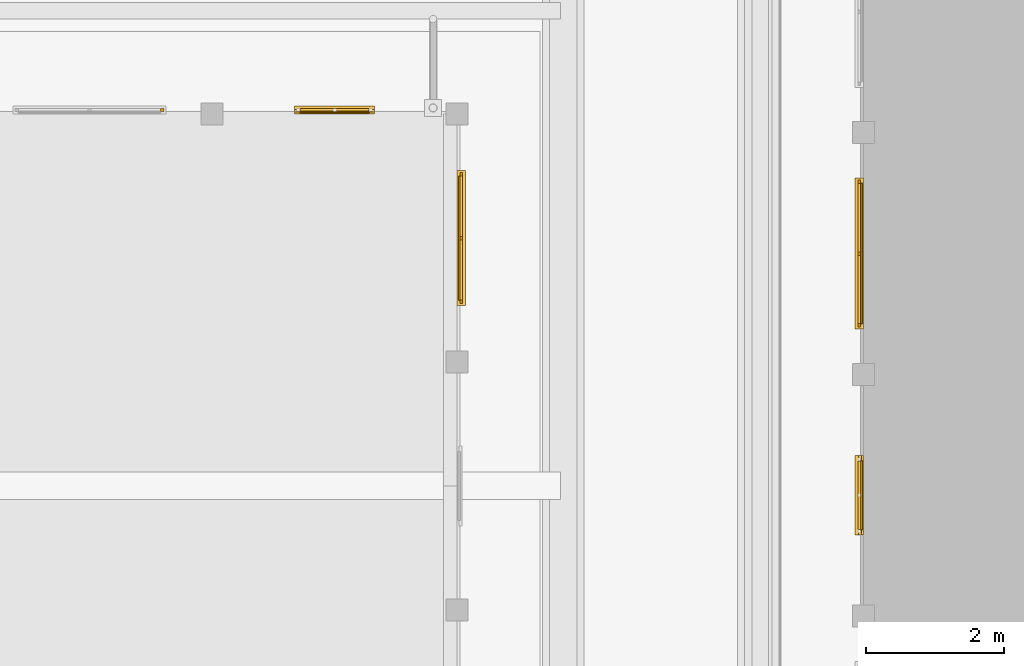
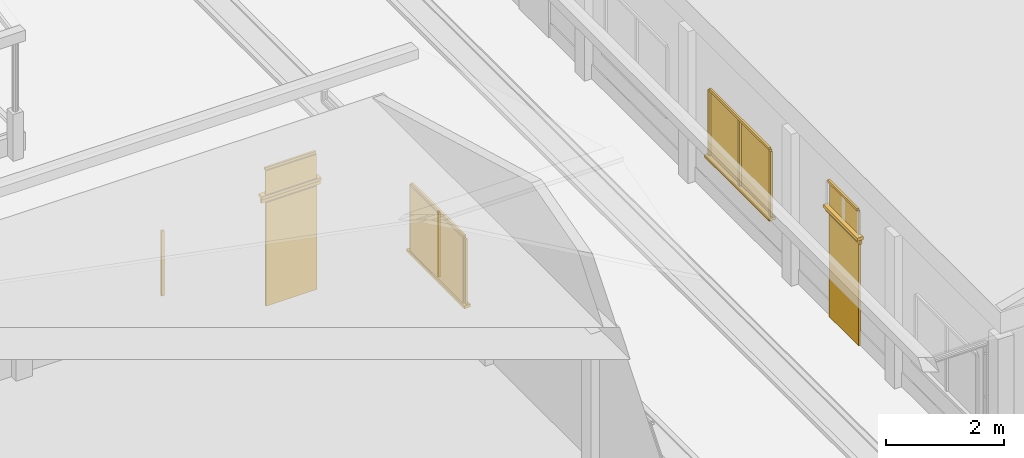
# One storey, part 65 of 177: 19 windows, 4 doors.
"""IFC4 building model written with IfcOpenShell, lengths in metres."""

from ifc_helpers import new_model, si_unit, origin, origin_with_axes, place, context, subcontext, project, spatial, triangles, element, save


model = new_model("IFC4")

# Units and contexts
model_context = context("Model", 3, precision=1e-05, world=origin_with_axes())
body_context = subcontext(model_context, "Body", "Model", "MODEL_VIEW")
ifc_project = project(units=[si_unit("LENGTHUNIT", "METRE"), si_unit("AREAUNIT", "SQUARE_METRE"), si_unit("VOLUMEUNIT", "CUBIC_METRE"), si_unit("PLANEANGLEUNIT", "RADIAN")], contexts=[model_context])

# Site, building, storey
site_placement = place(None, origin_with_axes())
site = spatial("IfcSite", under=ifc_project, at=site_placement, Name="Predio Los Mangos - Morales, San Martín", CompositionType="ELEMENT")
building_placement = place(site_placement, origin())
building = spatial("IfcBuilding", under=site, at=building_placement, Name="Hogar de Refugio Temporal", CompositionType="ELEMENT")
storey_placement = place(building_placement, origin())
storey = spatial("IfcBuildingStorey", under=building, at=storey_placement, Name="NIVEL 1 (NPT +0.00)", CompositionType="ELEMENT", Elevation=0.0)

# Window
window_1_placement = place(storey_placement, origin())
element("IfcWindow", 1, at=window_1_placement, inside=storey, Name="E-06_v3_m", ObjectType="Ventana", PredefinedType="WINDOW", context=body_context, shape_type="Tessellation", body=[
    triangles([(45.4924, 103.54, 1.05), (45.5424, 103.54, 1.05), (45.5424, 103.58, 1.05), (45.4924, 103.58, 1.05), (45.4924, 103.54, 2.4), (45.5424, 103.54, 2.4), (45.5424, 103.58, 2.4), (45.4924, 103.58, 2.4)], [[1, 4, 3], [1, 3, 2], [5, 6, 7], [5, 7, 8], [1, 2, 6], [1, 6, 5], [2, 3, 7], [2, 7, 6], [3, 4, 8], [3, 8, 7], [4, 1, 5], [4, 5, 8]]),
])

# Doors
door_1_placement = place(storey_placement, origin())
element("IfcDoor", 2, at=door_1_placement, inside=storey, Name="E-06_p4", ObjectType="Puerta", PredefinedType="DOOR", context=body_context, shape_type="Tessellation", body=[
    triangles([(47.52, 103.51, 0.15), (48.52, 103.51, 0.15), (48.52, 103.55, 0.15), (47.52, 103.55, 0.15), (47.52, 103.51, 2.3), (48.52, 103.51, 2.3), (48.52, 103.55, 2.3), (47.52, 103.55, 2.3)], [[1, 4, 3], [1, 3, 2], [5, 6, 7], [5, 7, 8], [1, 2, 6], [1, 6, 5], [2, 3, 7], [2, 7, 6], [3, 4, 8], [3, 8, 7], [4, 1, 5], [4, 5, 8]]),
])
door_2_placement = place(storey_placement, origin())
element("IfcDoor", 3, at=door_2_placement, inside=storey, Name="E-06_p4_marco", ObjectType="Puerta", PredefinedType="DOOR", context=body_context, shape_type="Tessellation", body=[
    triangles([(47.44, 103.53, 2.3), (48.6, 103.53, 2.3), (48.6, 103.57, 2.3), (47.44, 103.57, 2.3), (47.44, 103.53, 2.38), (48.6, 103.53, 2.38), (48.6, 103.57, 2.38), (47.44, 103.57, 2.38)], [[1, 4, 3], [1, 3, 2], [5, 6, 7], [5, 7, 8], [1, 2, 6], [1, 6, 5], [2, 3, 7], [2, 7, 6], [3, 4, 8], [3, 8, 7], [4, 1, 5], [4, 5, 8]]),
])

# Windows
window_2_placement = place(storey_placement, origin())
element("IfcWindow", 4, at=window_2_placement, inside=storey, Name="E-06_vt4_vid", ObjectType="Ventana", PredefinedType="WINDOW", context=body_context, shape_type="Tessellation", body=[
    triangles([(47.52, 103.52, 2.45), (48.52, 103.52, 2.45), (48.52, 103.54, 2.45), (47.52, 103.54, 2.45), (47.52, 103.52, 2.95), (48.52, 103.52, 2.95), (48.52, 103.54, 2.95), (47.52, 103.54, 2.95)], [[1, 4, 3], [1, 3, 2], [5, 6, 7], [5, 7, 8], [1, 2, 6], [1, 6, 5], [2, 3, 7], [2, 7, 6], [3, 4, 8], [3, 8, 7], [4, 1, 5], [4, 5, 8]]),
])
window_3_placement = place(storey_placement, origin())
element("IfcWindow", 5, at=window_3_placement, inside=storey, Name="E-06_vt4_m", ObjectType="Ventana", PredefinedType="WINDOW", context=body_context, shape_type="Tessellation", body=[
    triangles([(47.52, 103.54, 2.95), (48.52, 103.54, 2.95), (48.52, 103.58, 2.95), (47.52, 103.58, 2.95), (47.52, 103.54, 3.0), (48.52, 103.54, 3.0), (48.52, 103.58, 3.0), (47.52, 103.58, 3.0)], [[1, 4, 3], [1, 3, 2], [5, 6, 7], [5, 7, 8], [1, 2, 6], [1, 6, 5], [2, 3, 7], [2, 7, 6], [3, 4, 8], [3, 8, 7], [4, 1, 5], [4, 5, 8]]),
])
window_4_placement = place(storey_placement, origin())
element("IfcWindow", 6, at=window_4_placement, inside=storey, Name="E-06_vt4_alf", ObjectType="Ventana", PredefinedType="WINDOW", context=body_context, shape_type="Tessellation", body=[
    triangles([(47.44, 103.5, 2.39), (48.6, 103.5, 2.39), (48.6, 103.62, 2.39), (47.44, 103.62, 2.39), (47.44, 103.5, 2.45), (48.6, 103.5, 2.45), (48.6, 103.62, 2.45), (47.44, 103.62, 2.45)], [[1, 4, 3], [1, 3, 2], [5, 6, 7], [5, 7, 8], [1, 2, 6], [1, 6, 5], [2, 3, 7], [2, 7, 6], [3, 4, 8], [3, 8, 7], [4, 1, 5], [4, 5, 8]]),
])
window_5_placement = place(storey_placement, origin())
element("IfcWindow", 7, at=window_5_placement, inside=storey, Name="E-06_vg2_vid", ObjectType="Ventana", PredefinedType="WINDOW", context=body_context, shape_type="Tessellation", body=[
    triangles([(49.82, 100.8, 1.05), (49.84, 100.8, 1.05), (49.84, 102.6, 1.05), (49.82, 102.6, 1.05), (49.82, 100.8, 2.4), (49.84, 100.8, 2.4), (49.84, 102.6, 2.4), (49.82, 102.6, 2.4)], [[1, 4, 3], [1, 3, 2], [5, 6, 7], [5, 7, 8], [1, 2, 6], [1, 6, 5], [2, 3, 7], [2, 7, 6], [3, 4, 8], [3, 8, 7], [4, 1, 5], [4, 5, 8]]),
])
window_6_placement = place(storey_placement, origin())
element("IfcWindow", 8, at=window_6_placement, inside=storey, Name="E-06_vg2_m", ObjectType="Ventana", PredefinedType="WINDOW", context=body_context, shape_type="Tessellation", body=[
    triangles([(49.84, 100.75, 1.05), (49.88, 100.75, 1.05), (49.88, 100.8, 1.05), (49.84, 100.8, 1.05), (49.84, 100.75, 2.4), (49.88, 100.75, 2.4), (49.88, 100.8, 2.4), (49.84, 100.8, 2.4)], [[1, 4, 3], [1, 3, 2], [5, 6, 7], [5, 7, 8], [1, 2, 6], [1, 6, 5], [2, 3, 7], [2, 7, 6], [3, 4, 8], [3, 8, 7], [4, 1, 5], [4, 5, 8]]),
])
window_7_placement = place(storey_placement, origin())
element("IfcWindow", 9, at=window_7_placement, inside=storey, Name="E-06_vg2_m", ObjectType="Ventana", PredefinedType="WINDOW", context=body_context, shape_type="Tessellation", body=[
    triangles([(49.84, 102.6, 1.05), (49.88, 102.6, 1.05), (49.88, 102.65, 1.05), (49.84, 102.65, 1.05), (49.84, 102.6, 2.4), (49.88, 102.6, 2.4), (49.88, 102.65, 2.4), (49.84, 102.65, 2.4)], [[1, 4, 3], [1, 3, 2], [5, 6, 7], [5, 7, 8], [1, 2, 6], [1, 6, 5], [2, 3, 7], [2, 7, 6], [3, 4, 8], [3, 8, 7], [4, 1, 5], [4, 5, 8]]),
])
window_8_placement = place(storey_placement, origin())
element("IfcWindow", 10, at=window_8_placement, inside=storey, Name="E-06_vg2_m", ObjectType="Ventana", PredefinedType="WINDOW", context=body_context, shape_type="Tessellation", body=[
    triangles([(49.84, 100.8, 2.4), (49.88, 100.8, 2.4), (49.88, 102.6, 2.4), (49.84, 102.6, 2.4), (49.84, 100.8, 2.45), (49.88, 100.8, 2.45), (49.88, 102.6, 2.45), (49.84, 102.6, 2.45)], [[1, 4, 3], [1, 3, 2], [5, 6, 7], [5, 7, 8], [1, 2, 6], [1, 6, 5], [2, 3, 7], [2, 7, 6], [3, 4, 8], [3, 8, 7], [4, 1, 5], [4, 5, 8]]),
])
window_9_placement = place(storey_placement, origin())
element("IfcWindow", 11, at=window_9_placement, inside=storey, Name="E-06_vg2_m", ObjectType="Ventana", PredefinedType="WINDOW", context=body_context, shape_type="Tessellation", body=[
    triangles([(49.84, 101.675, 1.05), (49.88, 101.675, 1.05), (49.88, 101.725, 1.05), (49.84, 101.725, 1.05), (49.84, 101.675, 2.4), (49.88, 101.675, 2.4), (49.88, 101.725, 2.4), (49.84, 101.725, 2.4)], [[1, 4, 3], [1, 3, 2], [5, 6, 7], [5, 7, 8], [1, 2, 6], [1, 6, 5], [2, 3, 7], [2, 7, 6], [3, 4, 8], [3, 8, 7], [4, 1, 5], [4, 5, 8]]),
])
window_10_placement = place(storey_placement, origin())
element("IfcWindow", 12, at=window_10_placement, inside=storey, Name="E-06_vg2_alf", ObjectType="Ventana", PredefinedType="WINDOW", context=body_context, shape_type="Tessellation", body=[
    triangles([(49.8, 100.72, 0.99), (49.92, 100.72, 0.99), (49.92, 102.68, 0.99), (49.8, 102.68, 0.99), (49.8, 100.72, 1.05), (49.92, 100.72, 1.05), (49.92, 102.68, 1.05), (49.8, 102.68, 1.05)], [[1, 4, 3], [1, 3, 2], [5, 6, 7], [5, 7, 8], [1, 2, 6], [1, 6, 5], [2, 3, 7], [2, 7, 6], [3, 4, 8], [3, 8, 7], [4, 1, 5], [4, 5, 8]]),
])

# Doors
door_3_placement = place(storey_placement, origin())
element("IfcDoor", 13, at=door_3_placement, inside=storey, Name="E-07_p1", ObjectType="Puerta", PredefinedType="DOOR", context=body_context, shape_type="Tessellation", body=[
    triangles([(55.65, 97.465, 0.15), (55.69, 97.465, 0.15), (55.69, 98.465, 0.15), (55.65, 98.465, 0.15), (55.65, 97.465, 2.3), (55.69, 97.465, 2.3), (55.69, 98.465, 2.3), (55.65, 98.465, 2.3)], [[1, 4, 3], [1, 3, 2], [5, 6, 7], [5, 7, 8], [1, 2, 6], [1, 6, 5], [2, 3, 7], [2, 7, 6], [3, 4, 8], [3, 8, 7], [4, 1, 5], [4, 5, 8]]),
])
door_4_placement = place(storey_placement, origin())
element("IfcDoor", 14, at=door_4_placement, inside=storey, Name="E-07_p1_marco", ObjectType="Puerta", PredefinedType="DOOR", context=body_context, shape_type="Tessellation", body=[
    triangles([(55.63, 97.385, 2.3), (55.67, 97.385, 2.3), (55.67, 98.545, 2.3), (55.63, 98.545, 2.3), (55.63, 97.385, 2.38), (55.67, 97.385, 2.38), (55.67, 98.545, 2.38), (55.63, 98.545, 2.38)], [[1, 4, 3], [1, 3, 2], [5, 6, 7], [5, 7, 8], [1, 2, 6], [1, 6, 5], [2, 3, 7], [2, 7, 6], [3, 4, 8], [3, 8, 7], [4, 1, 5], [4, 5, 8]]),
])

# Windows
window_11_placement = place(storey_placement, origin())
element("IfcWindow", 15, at=window_11_placement, inside=storey, Name="E-07_vt1_vid", ObjectType="Ventana", PredefinedType="WINDOW", context=body_context, shape_type="Tessellation", body=[
    triangles([(55.66, 97.465, 2.45), (55.68, 97.465, 2.45), (55.68, 98.465, 2.45), (55.66, 98.465, 2.45), (55.66, 97.465, 2.95), (55.68, 97.465, 2.95), (55.68, 98.465, 2.95), (55.66, 98.465, 2.95)], [[1, 4, 3], [1, 3, 2], [5, 6, 7], [5, 7, 8], [1, 2, 6], [1, 6, 5], [2, 3, 7], [2, 7, 6], [3, 4, 8], [3, 8, 7], [4, 1, 5], [4, 5, 8]]),
])
window_12_placement = place(storey_placement, origin())
element("IfcWindow", 16, at=window_12_placement, inside=storey, Name="E-07_vt1_m", ObjectType="Ventana", PredefinedType="WINDOW", context=body_context, shape_type="Tessellation", body=[
    triangles([(55.62, 97.465, 2.95), (55.66, 97.465, 2.95), (55.66, 98.465, 2.95), (55.62, 98.465, 2.95), (55.62, 97.465, 3.0), (55.66, 97.465, 3.0), (55.66, 98.465, 3.0), (55.62, 98.465, 3.0)], [[1, 4, 3], [1, 3, 2], [5, 6, 7], [5, 7, 8], [1, 2, 6], [1, 6, 5], [2, 3, 7], [2, 7, 6], [3, 4, 8], [3, 8, 7], [4, 1, 5], [4, 5, 8]]),
])
window_13_placement = place(storey_placement, origin())
element("IfcWindow", 17, at=window_13_placement, inside=storey, Name="E-07_vt1_alf", ObjectType="Ventana", PredefinedType="WINDOW", context=body_context, shape_type="Tessellation", body=[
    triangles([(55.7, 97.385, 2.39), (55.58, 97.385, 2.39), (55.58, 98.545, 2.39), (55.7, 98.545, 2.39), (55.7, 97.385, 2.45), (55.58, 97.385, 2.45), (55.58, 98.545, 2.45), (55.7, 98.545, 2.45)], [[1, 4, 3], [1, 3, 2], [5, 6, 7], [5, 7, 8], [1, 2, 6], [1, 6, 5], [2, 3, 7], [2, 7, 6], [3, 4, 8], [3, 8, 7], [4, 1, 5], [4, 5, 8]]),
])
window_14_placement = place(storey_placement, origin())
element("IfcWindow", 18, at=window_14_placement, inside=storey, Name="E-07_v2_vid", ObjectType="Ventana", PredefinedType="WINDOW", context=body_context, shape_type="Tessellation", body=[
    triangles([(55.66, 100.4571, 1.05), (55.68, 100.4571, 1.05), (55.68, 102.4929, 1.05), (55.66, 102.4929, 1.05), (55.66, 100.4571, 2.4), (55.68, 100.4571, 2.4), (55.68, 102.4929, 2.4), (55.66, 102.4929, 2.4)], [[1, 4, 3], [1, 3, 2], [5, 6, 7], [5, 7, 8], [1, 2, 6], [1, 6, 5], [2, 3, 7], [2, 7, 6], [3, 4, 8], [3, 8, 7], [4, 1, 5], [4, 5, 8]]),
])
window_15_placement = place(storey_placement, origin())
element("IfcWindow", 19, at=window_15_placement, inside=storey, Name="E-07_v2_m", ObjectType="Ventana", PredefinedType="WINDOW", context=body_context, shape_type="Tessellation", body=[
    triangles([(55.62, 100.4071, 1.05), (55.66, 100.4071, 1.05), (55.66, 100.4571, 1.05), (55.62, 100.4571, 1.05), (55.62, 100.4071, 2.4), (55.66, 100.4071, 2.4), (55.66, 100.4571, 2.4), (55.62, 100.4571, 2.4)], [[1, 4, 3], [1, 3, 2], [5, 6, 7], [5, 7, 8], [1, 2, 6], [1, 6, 5], [2, 3, 7], [2, 7, 6], [3, 4, 8], [3, 8, 7], [4, 1, 5], [4, 5, 8]]),
])
window_16_placement = place(storey_placement, origin())
element("IfcWindow", 20, at=window_16_placement, inside=storey, Name="E-07_v2_m", ObjectType="Ventana", PredefinedType="WINDOW", context=body_context, shape_type="Tessellation", body=[
    triangles([(55.62, 102.4929, 1.05), (55.66, 102.4929, 1.05), (55.66, 102.5429, 1.05), (55.62, 102.5429, 1.05), (55.62, 102.4929, 2.4), (55.66, 102.4929, 2.4), (55.66, 102.5429, 2.4), (55.62, 102.5429, 2.4)], [[1, 4, 3], [1, 3, 2], [5, 6, 7], [5, 7, 8], [1, 2, 6], [1, 6, 5], [2, 3, 7], [2, 7, 6], [3, 4, 8], [3, 8, 7], [4, 1, 5], [4, 5, 8]]),
])
window_17_placement = place(storey_placement, origin())
element("IfcWindow", 21, at=window_17_placement, inside=storey, Name="E-07_v2_m", ObjectType="Ventana", PredefinedType="WINDOW", context=body_context, shape_type="Tessellation", body=[
    triangles([(55.62, 100.4571, 2.4), (55.66, 100.4571, 2.4), (55.66, 102.4929, 2.4), (55.62, 102.4929, 2.4), (55.62, 100.4571, 2.45), (55.66, 100.4571, 2.45), (55.66, 102.4929, 2.45), (55.62, 102.4929, 2.45)], [[1, 4, 3], [1, 3, 2], [5, 6, 7], [5, 7, 8], [1, 2, 6], [1, 6, 5], [2, 3, 7], [2, 7, 6], [3, 4, 8], [3, 8, 7], [4, 1, 5], [4, 5, 8]]),
])
window_18_placement = place(storey_placement, origin())
element("IfcWindow", 22, at=window_18_placement, inside=storey, Name="E-07_v2_m", ObjectType="Ventana", PredefinedType="WINDOW", context=body_context, shape_type="Tessellation", body=[
    triangles([(55.62, 101.45, 1.05), (55.66, 101.45, 1.05), (55.66, 101.5, 1.05), (55.62, 101.5, 1.05), (55.62, 101.45, 2.4), (55.66, 101.45, 2.4), (55.66, 101.5, 2.4), (55.62, 101.5, 2.4)], [[1, 4, 3], [1, 3, 2], [5, 6, 7], [5, 7, 8], [1, 2, 6], [1, 6, 5], [2, 3, 7], [2, 7, 6], [3, 4, 8], [3, 8, 7], [4, 1, 5], [4, 5, 8]]),
])
window_19_placement = place(storey_placement, origin())
element("IfcWindow", 23, at=window_19_placement, inside=storey, Name="E-07_v2_alf", ObjectType="Ventana", PredefinedType="WINDOW", context=body_context, shape_type="Tessellation", body=[
    triangles([(55.7, 100.3771, 0.99), (55.58, 100.3771, 0.99), (55.58, 102.5729, 0.99), (55.7, 102.5729, 0.99), (55.7, 100.3771, 1.05), (55.58, 100.3771, 1.05), (55.58, 102.5729, 1.05), (55.7, 102.5729, 1.05)], [[1, 4, 3], [1, 3, 2], [5, 6, 7], [5, 7, 8], [1, 2, 6], [1, 6, 5], [2, 3, 7], [2, 7, 6], [3, 4, 8], [3, 8, 7], [4, 1, 5], [4, 5, 8]]),
])

save(model, "model.ifc")
